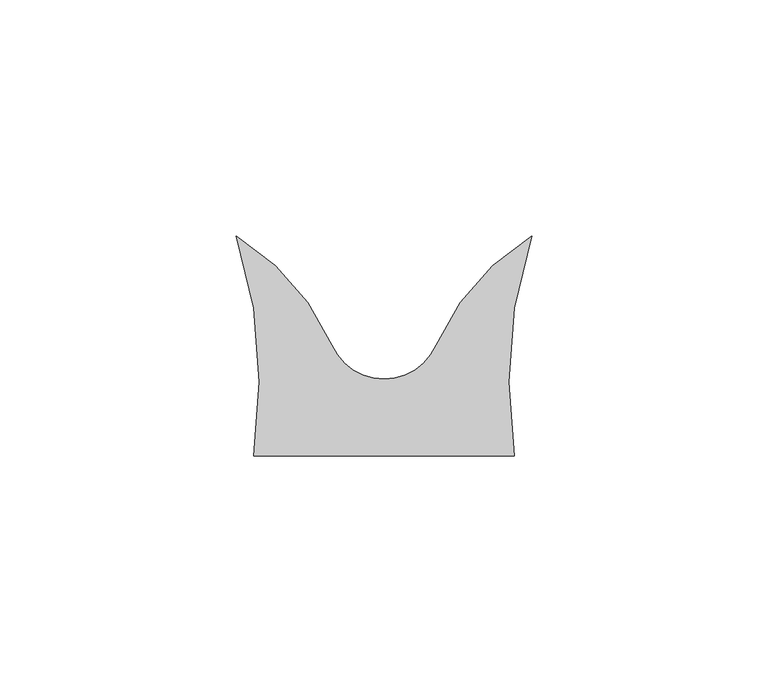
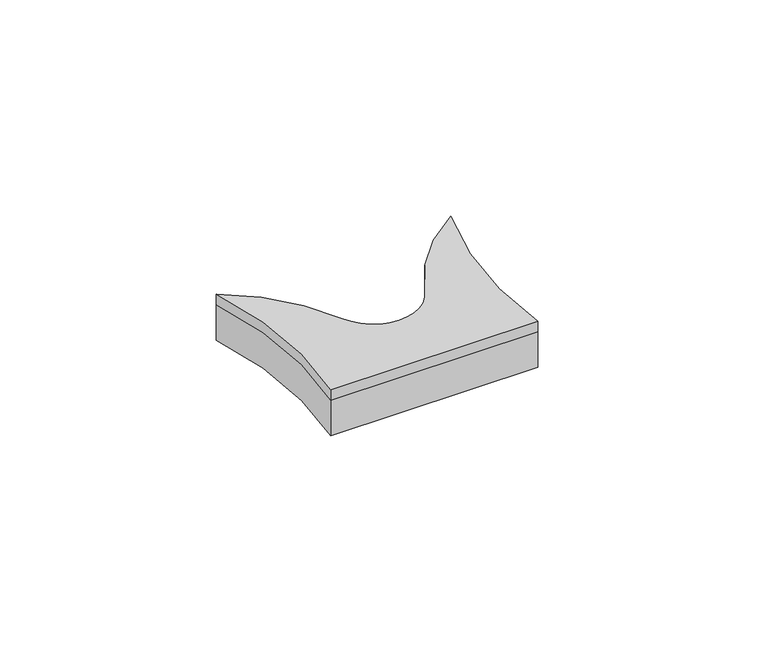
"""IFC4 building model written with IfcOpenShell, lengths in millimetres: proxy geometry, FilzFelt_Fish_Block : Fish Block."""

import ifcopenshell
import ifcopenshell.guid

model = None  # the IFC model being written
_history = None  # IfcOwnerHistory: only IFC2X3 demands one
_inside = {}  # id of a spatial element -> (the spatial element, [elements in it])
_under = {}  # id of a project, library or spatial element -> (it, [spatial elements below it])
_declared = {}  # id of a project -> (the project, [libraries it declares])
_typed = {}  # id of a type object -> (the type object, [elements of that type])
_made_of = {}  # id of a material, layer set ... -> (it, [elements and type objects made of it])


def new_model(schema):
    """Start an empty IFC model of exactly this schema.

    Asked for "IFC4X3", IfcOpenShell would pick the latest addendum, in which some entities
    have other attributes; the version numbers below select the first issue.
    IFC2X3 requires an IfcOwnerHistory on every rooted entity: one is made here for all.
    """
    global model, _history
    if schema == "IFC4X3":
        model = ifcopenshell.file(schema_version=(4, 3, 0, 0))
    else:
        model = ifcopenshell.file(schema=schema)
    _inside.clear()
    _under.clear()
    _declared.clear()
    _typed.clear()
    _made_of.clear()
    _history = None
    if model.schema == "IFC2X3":
        org = make("IfcOrganization", Name="unknown")
        user = make(
            "IfcPersonAndOrganization",
            ThePerson=make("IfcPerson", FamilyName="unknown"),
            TheOrganization=org,
        )
        app = make(
            "IfcApplication",
            ApplicationDeveloper=org,
            Version="unknown",
            ApplicationFullName="unknown",
            ApplicationIdentifier="unknown",
        )
        _history = make(
            "IfcOwnerHistory",
            OwningUser=user,
            OwningApplication=app,
            ChangeAction="ADDED",
            CreationDate=0,
        )
    return model


def make(cls, **values):
    """One entity of the class cls with the attributes given. An attribute that is None is left unset."""
    return model.create_entity(
        cls, **{name: value for name, value in values.items() if value is not None}
    )


def rooted(cls, **values):
    """An entity with a GlobalId (a new one), such as an element, a storey or a relation."""
    return make(cls, GlobalId=ifcopenshell.guid.new(), OwnerHistory=_history, **values)


def si_unit(unit_type, name, prefix=None):
    """IfcSIUnit, for example si_unit("LENGTHUNIT", "METRE", prefix="MILLI")."""
    return make("IfcSIUnit", UnitType=unit_type, Prefix=prefix, Name=name)


def assignment(units):
    """IfcUnitAssignment: the units of a project."""
    return None if units is None else make("IfcUnitAssignment", Units=units)


def point(xyz):
    """IfcCartesianPoint."""
    return None if xyz is None else make("IfcCartesianPoint", Coordinates=xyz)


def direction(xyz):
    """IfcDirection."""
    return None if xyz is None else make("IfcDirection", DirectionRatios=xyz)


def frame(location, z_axis=None, x_axis=None):
    """IfcAxis2Placement3D, a coordinate frame: its origin and axes. An axis left out is left unset."""
    return make(
        "IfcAxis2Placement3D",
        Location=point(location),
        Axis=direction(z_axis),
        RefDirection=direction(x_axis),
    )


def frame_2d(location, x_axis=None):
    """IfcAxis2Placement2D, a coordinate frame in the plane: its origin and x axis."""
    return make(
        "IfcAxis2Placement2D", Location=point(location), RefDirection=direction(x_axis)
    )


def origin():
    """The frame at (0, 0, 0) with its axes left unset."""
    return frame((0.0, 0.0, 0.0))


def origin_with_axes():
    """The frame at (0, 0, 0) with the z axis (0, 0, 1) and the x axis (1, 0, 0) written out."""
    return frame((0.0, 0.0, 0.0), z_axis=(0.0, 0.0, 1.0), x_axis=(1.0, 0.0, 0.0))


def place(relative_to, where):
    """IfcLocalPlacement: puts the frame where relative to a parent placement (None: the world)."""
    return make(
        "IfcLocalPlacement", PlacementRelTo=relative_to, RelativePlacement=where
    )


def context(
    kind, dimensions, precision=None, world=None, true_north=None, identifier=None
):
    """IfcGeometricRepresentationContext, for example the 3D "Model" context."""
    return make(
        "IfcGeometricRepresentationContext",
        ContextIdentifier=identifier,
        ContextType=kind,
        CoordinateSpaceDimension=dimensions,
        Precision=precision,
        WorldCoordinateSystem=world,
        TrueNorth=true_north,
    )


def project(units=None, contexts=None):
    """IfcProject with its units and contexts."""
    return rooted(
        "IfcProject",
        Name="project",
        RepresentationContexts=contexts,
        UnitsInContext=assignment(units),
    )


def spatial(cls, under=None, at=None, **own):
    """A site, building, storey or space (cls), placed at a placement, below another one or the project."""
    s = rooted(cls, ObjectPlacement=at, **own)
    if under is not None:
        _under.setdefault(under.id(), (under, []))[1].append(s)
    return s


def polyline(points):
    """IfcPolyline through the points."""
    return make("IfcPolyline", Points=[point(p) for p in points])


def circle_curve(where, radius):
    """IfcCircle in the frame where."""
    return make("IfcCircle", Position=where, Radius=radius)


def trimmed(basis, trim1, trim2, sense, master):
    """IfcTrimmedCurve: the piece of a basis curve between two trims."""
    return make(
        "IfcTrimmedCurve",
        BasisCurve=basis,
        Trim1=trim1,
        Trim2=trim2,
        SenseAgreement=sense,
        MasterRepresentation=master,
    )


def segment(curve, same_sense, transition):
    """IfcCompositeCurveSegment."""
    return make(
        "IfcCompositeCurveSegment",
        Transition=transition,
        SameSense=same_sense,
        ParentCurve=curve,
    )


def composite_curve(segments, self_intersect=None):
    """IfcCompositeCurve: segments joined end to end."""
    return make("IfcCompositeCurve", Segments=segments, SelfIntersect=self_intersect)


def outline(outer, holes=None, kind="AREA"):
    """IfcArbitraryClosedProfileDef: a profile drawn as a closed curve; with holes, ...WithVoids."""
    if holes is None:
        return make("IfcArbitraryClosedProfileDef", ProfileType=kind, OuterCurve=outer)
    return make(
        "IfcArbitraryProfileDefWithVoids",
        ProfileType=kind,
        OuterCurve=outer,
        InnerCurves=holes,
    )


def extrude(swept, where, along, depth):
    """IfcExtrudedAreaSolid: the profile swept, set in the frame where, extruded along a direction by depth."""
    return make(
        "IfcExtrudedAreaSolid",
        SweptArea=swept,
        Position=where,
        ExtrudedDirection=direction(along),
        Depth=depth,
    )


def shape(context_of_items, identifier, shape_type, items):
    """IfcShapeRepresentation: the items that make up one representation, for example the "Body"."""
    return make(
        "IfcShapeRepresentation",
        ContextOfItems=context_of_items,
        RepresentationIdentifier=identifier,
        RepresentationType=shape_type,
        Items=items,
    )


def source(mapping_origin, context_of_items, identifier, shape_type, items):
    """IfcRepresentationMap: a shape defined once, which mapped items show again and again."""
    return make(
        "IfcRepresentationMap",
        MappingOrigin=mapping_origin,
        MappedRepresentation=shape(context_of_items, identifier, shape_type, items),
    )


def transform(
    local_origin,
    x_axis=None,
    y_axis=None,
    z_axis=None,
    scale=None,
    scale2=None,
    scale3=None,
    uniform=True,
):
    """IfcCartesianTransformationOperator3D, or its non-uniform kind. x_axis, y_axis, z_axis: its Axis1, 2, 3."""
    if uniform:
        return make(
            "IfcCartesianTransformationOperator3D",
            Axis1=direction(x_axis),
            Axis2=direction(y_axis),
            LocalOrigin=point(local_origin),
            Scale=scale,
            Axis3=direction(z_axis),
        )
    return make(
        "IfcCartesianTransformationOperator3DnonUniform",
        Axis1=direction(x_axis),
        Axis2=direction(y_axis),
        LocalOrigin=point(local_origin),
        Scale=scale,
        Axis3=direction(z_axis),
        Scale2=scale2,
        Scale3=scale3,
    )


def mapped(mapping_source, mapping_target):
    """IfcMappedItem: shows the shape of a source again, moved by a transform."""
    return make(
        "IfcMappedItem", MappingSource=mapping_source, MappingTarget=mapping_target
    )


def made_of(thing, what):
    """Note that an element or type object is made of a material, layer set ...; save() writes the relation."""
    if what is not None:
        _made_of.setdefault(what.id(), (what, []))[1].append(thing)
    return thing


def element(
    cls,
    number,
    at=None,
    inside=None,
    cuts=None,
    type_object=None,
    material=None,
    context=None,
    identifier="Body",
    shape_type=None,
    held_by="IfcProductDefinitionShape",
    body=None,
    shapes=None,
    **own,
):
    """One element of the class cls, such as IfcWall. Its Tag is "e" and its number.

    at: its placement. inside: the storey or other place that contains it. cuts: it is an
    opening in that element (IfcRelVoidsElement). A single representation is given by context,
    identifier, shape_type and body (its items); several are given by shapes. held_by: the class
    of the entity that holds the representations. save() writes the other relations.
    """
    e = rooted(cls, Tag="e%d" % number, ObjectPlacement=at, **own)
    if body is not None:
        shapes = [shape(context, identifier, shape_type, body)]
    if shapes is not None:
        e.Representation = make(held_by, Representations=shapes)
    if inside is not None:
        _inside.setdefault(inside.id(), (inside, []))[1].append(e)
    if cuts is not None:
        rooted(
            "IfcRelVoidsElement", RelatingBuildingElement=cuts, RelatedOpeningElement=e
        )
    if type_object is not None:
        _typed.setdefault(type_object.id(), (type_object, []))[1].append(e)
    return made_of(e, material)


def aggregate(whole, parts):
    """IfcRelAggregates: a whole, such as a stair, and the parts it consists of."""
    return rooted("IfcRelAggregates", RelatingObject=whole, RelatedObjects=parts)


def save(model, path):
    """Write the relations noted so far, then the file.

    IfcRelAggregates (storeys below a building ...), IfcRelContainedInSpatialStructure (elements
    in a storey), IfcRelDefinesByType, IfcRelAssociatesMaterial and IfcRelDeclares: one each for
    every whole, place, type object, material and project.
    """
    for whole, parts in _under.values():
        aggregate(whole, parts)
    for where, things in _inside.values():
        rooted(
            "IfcRelContainedInSpatialStructure",
            RelatedElements=things,
            RelatingStructure=where,
        )
    for kind, things in _typed.values():
        rooted("IfcRelDefinesByType", RelatedObjects=things, RelatingType=kind)
    for what, things in _made_of.values():
        rooted("IfcRelAssociatesMaterial", RelatedObjects=things, RelatingMaterial=what)
    for by, libraries in _declared.values():
        rooted("IfcRelDeclares", RelatingContext=by, RelatedDefinitions=libraries)
    model.write(path)


def specialty_equipment_3b3f1b17(model_context):
    return source(origin(), model_context, "Body", "SweptSolid", [
        extrude(outline(composite_curve([segment(trimmed(circle_curve(frame_2d((126.6124317, 137.2240266)), 100.2293629), [point((31.2619065, 168.1141956))], [point((27.6129447, 121.570696))], True, "CARTESIAN"), True, "CONTINUOUS"), segment(polyline([(27.6129447, 121.570696), (-27.6129447, 121.570696)]), True, "CONTINUOUS"), segment(trimmed(circle_curve(frame_2d((-126.6124317, 137.2240266)), 100.2293629), [point((-27.6129447, 121.570696))], [point((-31.2619065, 168.1141956))], True, "CARTESIAN"), True, "CONTINUOUS"), segment(trimmed(circle_curve(frame_2d((-57.9263497, 124.2921115)), 51.2968574), [point((-31.2619065, 168.1141956))], [point((-11.0103348, 145.0347036))], False, "CARTESIAN"), True, "CONTINUOUS"), segment(trimmed(circle_curve(frame_2d((0.0, 149.9026124)), 12.0384388), [point((-11.0103348, 145.0347036))], [point((11.0103348, 145.0347036))], True, "CARTESIAN"), True, "CONTINUOUS"), segment(trimmed(circle_curve(frame_2d((57.9263497, 124.2921115)), 51.2968574), [point((11.0103348, 145.0347036))], [point((31.2619065, 168.1141956))], False, "CARTESIAN"), True, "CONTINUOUS")], self_intersect=False)), frame((0.0, 0.0, 10.0210937), z_axis=(0.0, 0.0, 1.0), x_axis=(1.0, 0.0, 0.0)), (0.0, 0.0, 1.0), 2.9765625),
        extrude(outline(composite_curve([segment(trimmed(circle_curve(frame_2d((126.6124317, 137.2240266)), 100.2293629), [point((31.2619065, 168.1141956))], [point((27.6129447, 121.570696))], True, "CARTESIAN"), True, "CONTINUOUS"), segment(polyline([(27.6129447, 121.570696), (-27.6129447, 121.570696)]), True, "CONTINUOUS"), segment(trimmed(circle_curve(frame_2d((-126.6124317, 137.2240266)), 100.2293629), [point((-27.6129447, 121.570696))], [point((-31.2619065, 168.1141956))], True, "CARTESIAN"), True, "CONTINUOUS"), segment(trimmed(circle_curve(frame_2d((-57.9263497, 124.2921115)), 51.2968574), [point((-31.2619065, 168.1141956))], [point((-11.0103348, 145.0347036))], False, "CARTESIAN"), True, "CONTINUOUS"), segment(trimmed(circle_curve(frame_2d((0.0, 149.9026124)), 12.0384388), [point((-11.0103348, 145.0347036))], [point((11.0103348, 145.0347036))], True, "CARTESIAN"), True, "CONTINUOUS"), segment(trimmed(circle_curve(frame_2d((57.9263497, 124.2921115)), 51.2968574), [point((11.0103348, 145.0347036))], [point((31.2619065, 168.1141956))], False, "CARTESIAN"), True, "CONTINUOUS")], self_intersect=False)), origin_with_axes(), (0.0, 0.0, 1.0), 10.0210938),
    ])


if __name__ == "__main__":
    model = new_model("IFC4")
    model_context = context("Model", 3, world=origin())
    ifc_project = project(units=[si_unit("LENGTHUNIT", "METRE", prefix="MILLI")], contexts=[model_context])
    site = spatial("IfcSite", under=ifc_project)
    building = spatial("IfcBuilding", under=site)
    placement = place(None, origin())
    specialty_equipment_shape = specialty_equipment_3b3f1b17(model_context)
    element("IfcBuildingElementProxy", 1, Name="FilzFelt_Fish_Block : Fish Block", ObjectType="FilzFelt_Fish_Block : Fish Block", at=placement, inside=building, context=model_context, shape_type="MappedRepresentation", body=[
        mapped(specialty_equipment_shape, transform((0.0, 0.0, 0.0), x_axis=(1.0, 0.0, 0.0), y_axis=(0.0, 1.0, 0.0), z_axis=(0.0, 0.0, 1.0))),
    ])
    save(model, "model.ifc")
